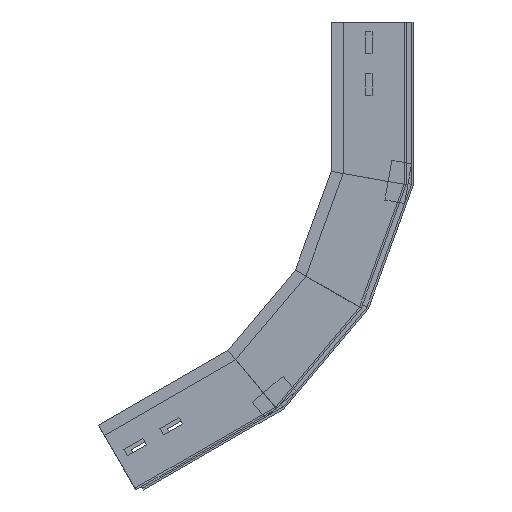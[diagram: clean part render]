
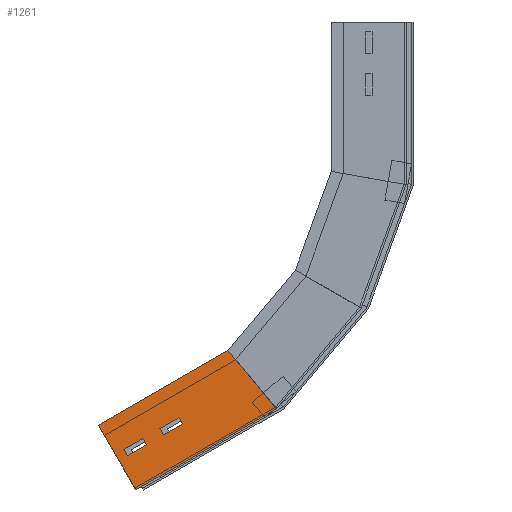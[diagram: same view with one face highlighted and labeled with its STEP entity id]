
A CAD part, left-side view. The second image highlights one B-rep face of the part: STEP entity #1261.
In plain terms, the highlighted planar face has unit normal (-1, 0, 0) as drawn and (1, 0, 0) by its records, which use the part's own axes.
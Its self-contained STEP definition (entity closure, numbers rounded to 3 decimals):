
#5 = FACE_BOUND ( 'NONE', #948, .T. ) ;
#58 = ORIENTED_EDGE ( 'NONE', *, *, #852, .T. ) ;
#61 = CARTESIAN_POINT ( 'NONE',  ( 0., 41., -9.835 ) ) ;
#63 = VECTOR ( 'NONE', #1570, 1000. ) ;
#76 = CARTESIAN_POINT ( 'NONE',  ( 0., 41., -73.505 ) ) ;
#85 = VERTEX_POINT ( 'NONE', #1000 ) ;
#91 = DIRECTION ( 'NONE',  ( 0., 1., 0. ) ) ;
#99 = ORIENTED_EDGE ( 'NONE', *, *, #683, .T. ) ;
#123 = CARTESIAN_POINT ( 'NONE',  ( 0., 0., 0. ) ) ;
#192 = DIRECTION ( 'NONE',  ( 0., -1., 0. ) ) ;
#193 = CARTESIAN_POINT ( 'NONE',  ( 0., 75., 0. ) ) ;
#197 = VECTOR ( 'NONE', #698, 1000. ) ;
#205 = VERTEX_POINT ( 'NONE', #515 ) ;
#207 = CARTESIAN_POINT ( 'NONE',  ( 0., 27.875, -158.085 ) ) ;
#227 = VECTOR ( 'NONE', #91, 1000. ) ;
#247 = VECTOR ( 'NONE', #456, 1000. ) ;
#267 = LINE ( 'NONE', #1596, #729 ) ;
#343 = CARTESIAN_POINT ( 'NONE',  ( 0., 34., -31.835 ) ) ;
#361 = EDGE_CURVE ( 'NONE', #1498, #1409, #1204, .T. ) ;
#373 = ORIENTED_EDGE ( 'NONE', *, *, #1462, .T. ) ;
#380 = VECTOR ( 'NONE', #553, 1000. ) ;
#397 = VERTEX_POINT ( 'NONE', #848 ) ;
#398 = DIRECTION ( 'NONE',  ( 0., 1., 0. ) ) ;
#400 = EDGE_CURVE ( 'NONE', #85, #984, #1245, .T. ) ;
#449 = CARTESIAN_POINT ( 'NONE',  ( 0., 0., 0. ) ) ;
#456 = DIRECTION ( 'NONE',  ( 0., 0., -1. ) ) ;
#480 = PLANE ( 'NONE',  #622 ) ;
#493 = VECTOR ( 'NONE', #554, 1000. ) ;
#515 = CARTESIAN_POINT ( 'NONE',  ( 0., 41., -51.505 ) ) ;
#547 = LINE ( 'NONE', #193, #1558 ) ;
#553 = DIRECTION ( 'NONE',  ( 0., -1., 0. ) ) ;
#554 = DIRECTION ( 'NONE',  ( 0., 0., -1. ) ) ;
#564 = DIRECTION ( 'NONE',  ( 0., 0., -1. ) ) ;
#570 = LINE ( 'NONE', #449, #493 ) ;
#588 = LINE ( 'NONE', #76, #1113 ) ;
#590 = EDGE_LOOP ( 'NONE', ( #99, #1303, #58, #1308 ) ) ;
#622 = AXIS2_PLACEMENT_3D ( 'NONE', #123, #631, #1392 ) ;
#631 = DIRECTION ( 'NONE',  ( -1., 0., 0. ) ) ;
#645 = CARTESIAN_POINT ( 'NONE',  ( 0., 41., -9.835 ) ) ;
#670 = EDGE_CURVE ( 'NONE', #1624, #1636, #903, .T. ) ;
#681 = CARTESIAN_POINT ( 'NONE',  ( 0., 34., -73.505 ) ) ;
#683 = EDGE_CURVE ( 'NONE', #1636, #205, #267, .T. ) ;
#687 = CARTESIAN_POINT ( 'NONE',  ( 0., 41., -31.835 ) ) ;
#688 = CARTESIAN_POINT ( 'NONE',  ( 0., 75., 0. ) ) ;
#696 = ORIENTED_EDGE ( 'NONE', *, *, #400, .T. ) ;
#698 = DIRECTION ( 'NONE',  ( 0., 0., -1. ) ) ;
#715 = DIRECTION ( 'NONE',  ( 0., -0.985, -0.174 ) ) ;
#729 = VECTOR ( 'NONE', #398, 1000. ) ;
#770 = VERTEX_POINT ( 'NONE', #776 ) ;
#776 = CARTESIAN_POINT ( 'NONE',  ( 0., 41., -73.505 ) ) ;
#779 = EDGE_CURVE ( 'NONE', #873, #1480, #928, .T. ) ;
#791 = CARTESIAN_POINT ( 'NONE',  ( 0., 34., -51.505 ) ) ;
#793 = EDGE_CURVE ( 'NONE', #205, #770, #1634, .T. ) ;
#795 = CARTESIAN_POINT ( 'NONE',  ( 0., 0., 0. ) ) ;
#801 = EDGE_CURVE ( 'NONE', #1480, #85, #944, .T. ) ;
#817 = ORIENTED_EDGE ( 'NONE', *, *, #1159, .F. ) ;
#818 = LINE ( 'NONE', #61, #197 ) ;
#848 = CARTESIAN_POINT ( 'NONE',  ( 0., 0., -163. ) ) ;
#852 = EDGE_CURVE ( 'NONE', #770, #1624, #588, .T. ) ;
#864 = FACE_BOUND ( 'NONE', #590, .T. ) ;
#869 = CARTESIAN_POINT ( 'NONE',  ( 0., 0., 0. ) ) ;
#873 = VERTEX_POINT ( 'NONE', #1073 ) ;
#903 = LINE ( 'NONE', #1066, #63 ) ;
#928 = LINE ( 'NONE', #687, #380 ) ;
#931 = ORIENTED_EDGE ( 'NONE', *, *, #361, .F. ) ;
#939 = ORIENTED_EDGE ( 'NONE', *, *, #1134, .T. ) ;
#944 = LINE ( 'NONE', #967, #1195 ) ;
#948 = EDGE_LOOP ( 'NONE', ( #696, #939, #1209, #1355 ) ) ;
#953 = DIRECTION ( 'NONE',  ( 0., 1., 0. ) ) ;
#967 = CARTESIAN_POINT ( 'NONE',  ( 0., 34., -9.835 ) ) ;
#984 = VERTEX_POINT ( 'NONE', #645 ) ;
#1000 = CARTESIAN_POINT ( 'NONE',  ( 0., 34., -9.835 ) ) ;
#1049 = FACE_OUTER_BOUND ( 'NONE', #1304, .T. ) ;
#1066 = CARTESIAN_POINT ( 'NONE',  ( 0., 34., -51.505 ) ) ;
#1073 = CARTESIAN_POINT ( 'NONE',  ( 0., 41., -31.835 ) ) ;
#1077 = CARTESIAN_POINT ( 'NONE',  ( 0., 75., -149.775 ) ) ;
#1113 = VECTOR ( 'NONE', #192, 1000. ) ;
#1134 = EDGE_CURVE ( 'NONE', #984, #873, #818, .T. ) ;
#1159 = EDGE_CURVE ( 'NONE', #1677, #397, #1638, .T. ) ;
#1166 = VECTOR ( 'NONE', #953, 1000. ) ;
#1195 = VECTOR ( 'NONE', #1499, 1000. ) ;
#1204 = LINE ( 'NONE', #795, #1166 ) ;
#1209 = ORIENTED_EDGE ( 'NONE', *, *, #779, .T. ) ;
#1245 = LINE ( 'NONE', #1250, #227 ) ;
#1250 = CARTESIAN_POINT ( 'NONE',  ( 0., 41., -9.835 ) ) ;
#1261 = ADVANCED_FACE ( 'NONE', ( #864, #1049, #5 ), #480, .F. ) ;
#1303 = ORIENTED_EDGE ( 'NONE', *, *, #793, .T. ) ;
#1304 = EDGE_LOOP ( 'NONE', ( #1543, #931, #373, #817 ) ) ;
#1308 = ORIENTED_EDGE ( 'NONE', *, *, #670, .T. ) ;
#1312 = VECTOR ( 'NONE', #715, 1000. ) ;
#1355 = ORIENTED_EDGE ( 'NONE', *, *, #801, .T. ) ;
#1358 = CARTESIAN_POINT ( 'NONE',  ( 0., 41., -51.505 ) ) ;
#1392 = DIRECTION ( 'NONE',  ( 0., 0., 1. ) ) ;
#1409 = VERTEX_POINT ( 'NONE', #688 ) ;
#1443 = EDGE_CURVE ( 'NONE', #1409, #1677, #547, .T. ) ;
#1462 = EDGE_CURVE ( 'NONE', #1498, #397, #570, .T. ) ;
#1480 = VERTEX_POINT ( 'NONE', #343 ) ;
#1498 = VERTEX_POINT ( 'NONE', #869 ) ;
#1499 = DIRECTION ( 'NONE',  ( 0., 0., 1. ) ) ;
#1543 = ORIENTED_EDGE ( 'NONE', *, *, #1443, .F. ) ;
#1558 = VECTOR ( 'NONE', #564, 1000. ) ;
#1570 = DIRECTION ( 'NONE',  ( 0., 0., 1. ) ) ;
#1596 = CARTESIAN_POINT ( 'NONE',  ( 0., 41., -51.505 ) ) ;
#1624 = VERTEX_POINT ( 'NONE', #681 ) ;
#1634 = LINE ( 'NONE', #1358, #247 ) ;
#1636 = VERTEX_POINT ( 'NONE', #791 ) ;
#1638 = LINE ( 'NONE', #207, #1312 ) ;
#1677 = VERTEX_POINT ( 'NONE', #1077 ) ;
